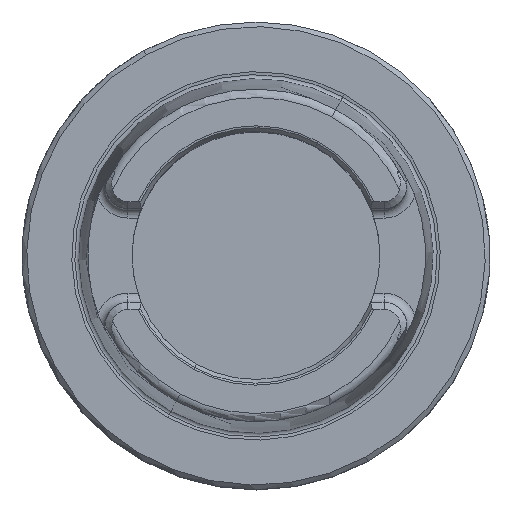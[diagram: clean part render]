
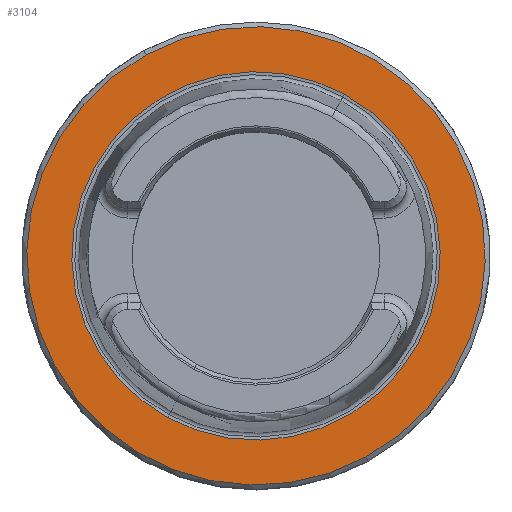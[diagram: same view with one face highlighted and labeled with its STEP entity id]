
A CAD part, top view. The second image highlights one B-rep face of the part: STEP entity #3104.
In plain terms, the highlighted planar face has unit normal (0, 0, 1).
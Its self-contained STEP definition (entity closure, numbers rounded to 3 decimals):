
#3046=AXIS2_PLACEMENT_3D('Circle Axis2P3D',#3044,#3045,$) ;
#3066=AXIS2_PLACEMENT_3D('Circle Axis2P3D',#3064,#3065,$) ;
#3080=AXIS2_PLACEMENT_3D('Plane Axis2P3D',#3077,#3078,#3079) ;
#3088=AXIS2_PLACEMENT_3D('Circle Axis2P3D',#3086,#3087,$) ;
#3097=AXIS2_PLACEMENT_3D('Circle Axis2P3D',#3095,#3096,$) ;
#3041=CARTESIAN_POINT('Vertex',(23.492,-43.002,0.)) ;
#3044=CARTESIAN_POINT('Axis2P3D Location',(0.,0.,0.)) ;
#3048=CARTESIAN_POINT('Vertex',(-23.492,43.002,0.)) ;
#3064=CARTESIAN_POINT('Axis2P3D Location',(0.,0.,0.)) ;
#3077=CARTESIAN_POINT('Axis2P3D Location',(0.,-38.285,0.)) ;
#3086=CARTESIAN_POINT('Axis2P3D Location',(0.,0.,0.)) ;
#3090=CARTESIAN_POINT('Vertex',(18.88,34.56,0.)) ;
#3092=CARTESIAN_POINT('Vertex',(-18.88,-34.56,0.)) ;
#3095=CARTESIAN_POINT('Axis2P3D Location',(0.,0.,0.)) ;
#3045=DIRECTION('Axis2P3D Direction',(0.,0.,-1.)) ;
#3065=DIRECTION('Axis2P3D Direction',(0.,0.,-1.)) ;
#3078=DIRECTION('Axis2P3D Direction',(0.,0.,-1.)) ;
#3079=DIRECTION('Axis2P3D XDirection',(-1.,0.,0.)) ;
#3087=DIRECTION('Axis2P3D Direction',(0.,0.,-1.)) ;
#3096=DIRECTION('Axis2P3D Direction',(0.,0.,-1.)) ;
#3083=ORIENTED_EDGE('',*,*,#3050,.F.) ;
#3084=ORIENTED_EDGE('',*,*,#3068,.F.) ;
#3101=ORIENTED_EDGE('',*,*,#3094,.T.) ;
#3102=ORIENTED_EDGE('',*,*,#3099,.T.) ;
#3103=FACE_BOUND('',#3100,.T.) ;
#3104=ADVANCED_FACE('NO_CUT',(#3085,#3103),#3081,.F.) ;
#3047=CIRCLE('generated circle',#3046,49.) ;
#3067=CIRCLE('generated circle',#3066,49.) ;
#3089=CIRCLE('generated circle',#3088,39.381) ;
#3098=CIRCLE('generated circle',#3097,39.381) ;
#3050=EDGE_CURVE('',#3042,#3049,#3047,.T.) ;
#3068=EDGE_CURVE('',#3049,#3042,#3067,.T.) ;
#3094=EDGE_CURVE('',#3091,#3093,#3089,.T.) ;
#3099=EDGE_CURVE('',#3093,#3091,#3098,.T.) ;
#3082=EDGE_LOOP('',(#3083,#3084)) ;
#3100=EDGE_LOOP('',(#3101,#3102)) ;
#3085=FACE_OUTER_BOUND('',#3082,.T.) ;
#3081=PLANE('',#3080) ;
#3042=VERTEX_POINT('',#3041) ;
#3049=VERTEX_POINT('',#3048) ;
#3091=VERTEX_POINT('',#3090) ;
#3093=VERTEX_POINT('',#3092) ;
